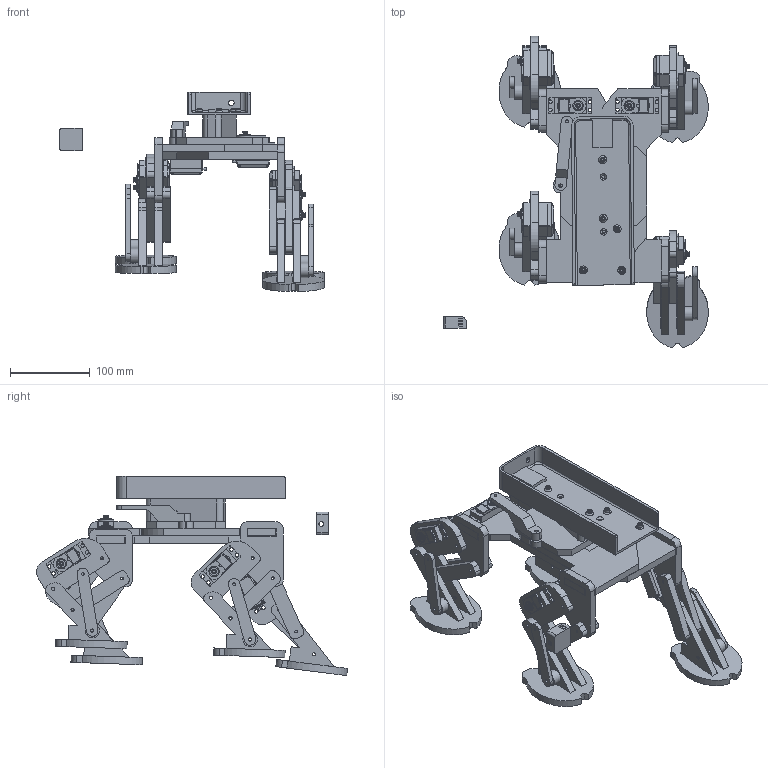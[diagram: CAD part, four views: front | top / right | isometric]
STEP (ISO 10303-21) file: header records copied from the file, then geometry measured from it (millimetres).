
FILE_DESCRIPTION(/* description */ (''),/* implementation_level */ '2;1');
FILE_NAME(/* name */ 'Assembly4.stp',/* time_stamp */ '2026-05-12T21:16:36+07:00',/* author */ ('Martina'),/* organization */ (''),/* preprocessor_version */ 'ST-DEVELOPER v20.1',/* originating_system */ 'Autodesk Inventor 2026',/* authorisation */ '');
FILE_SCHEMA (('AUTOMOTIVE_DESIGN { 1 0 10303 214 3 1 1 }'));
Products named in the file (43): Assembly4; Component4; Component4_1; stub; Component2; Spacer6; Uleg01; telapak kaki; Component2_1; uleg1; Hip; Component2_MIR; Spacer6_MIR; Uleg01_MIR; telapak kaki_MIR; Component2_MIR_1; LegLver_MIR; Component2_MIR1; Spacer6_MIR1; Uleg01_MIR1; telapak kaki_MIR1; Component2_MIR1_1; LegLver_MIR1; Component2_MIR_MIR; Spacer6_MIR_MIR; Uleg01_MIR_MIR; telapak kaki_MIR_MIR; Component2_MIR_MIR_1; LegLver_MIR_MIR; hip hitam; 2025-08-31-19-35-00-713; 2025-08-31-19-46-07-139; 2025-08-31-19-50-55-859; 2025-08-31-20-26-44-017; Part4; 2025-08-31-19-50-55-854; 2025-08-31-20-05-50-383; 2025-08-31-20-16-01-802; smart dustbin part 3 (aliminum clam) v3; Ekor  Robot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
Assembly tree (60 placements, depth 5):
  Assembly4
    Component4
    Component4_1
    stub
    Hip  x2
    Component2
    Component2_1  x2
    Spacer6
    Uleg01
    uleg1  x2
    telapak kaki
    Component2_MIR
    Component2_MIR_1  x2
    Spacer6_MIR
    Uleg01_MIR
    LegLver_MIR  x2
    telapak kaki_MIR
    Component2_MIR1
    Component2_MIR1_1  x2
    Spacer6_MIR1
    Uleg01_MIR1
    LegLver_MIR1  x2
    telapak kaki_MIR1
    Component2_MIR_MIR
    Component2_MIR_MIR_1  x2
    Spacer6_MIR_MIR
    Uleg01_MIR_MIR
    LegLver_MIR_MIR  x2
    telapak kaki_MIR_MIR
    hip hitam  x2
    2025-08-31-19-35-00-713  x6
      2025-08-31-19-46-07-139
        2025-08-31-19-50-55-859
          2025-08-31-20-26-44-017
          Part4
        2025-08-31-19-50-55-854
        2025-08-31-20-05-50-383
        2025-08-31-20-16-01-802
    smart dustbin part 3 (aliminum clam) v3  x4
    Ekor  Robot
    Kepala Robot
    Leher Robot
    Pendukung Servo Belok
Bounding box: 331.35 x 389.87 x 249.52 mm (x, y, z)
Volume: 1581134.8 mm3; surface area: 524308.5 mm2
Topology: 91 solids, 91 shells, 3073 faces, 7869 edges, 5024 vertices
Faces by surface type: plane 1948, cylinder 841, cone 242, torus 26, bspline 16
Full cylindrical faces by diameter (mm): 2.8 x15, 3 x12, 3.18 x18, 3.2 x20, 3.6 x1, 3.99 x2, 4 x4, 4.06 x44, 4.2 x2, 4.4 x1, 4.5 x24, 4.6 x4, 5.83 x6, 6 x8, 6.2 x1, 7 x4, 10.5 x6, 11 x2, 13 x6, 18 x6
Entity records: 32116 total; most frequent: CARTESIAN_POINT 5550, DIRECTION 5343, ORIENTED_EDGE 5010, EDGE_CURVE 2505, AXIS2_PLACEMENT_3D 1849, LINE 1645, VECTOR 1645, VERTEX_POINT 1628
